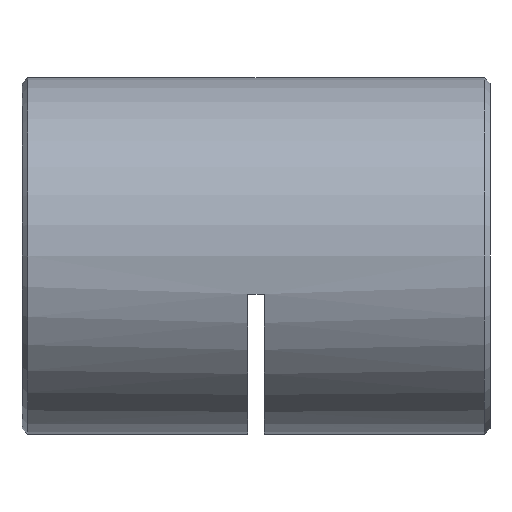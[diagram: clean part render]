
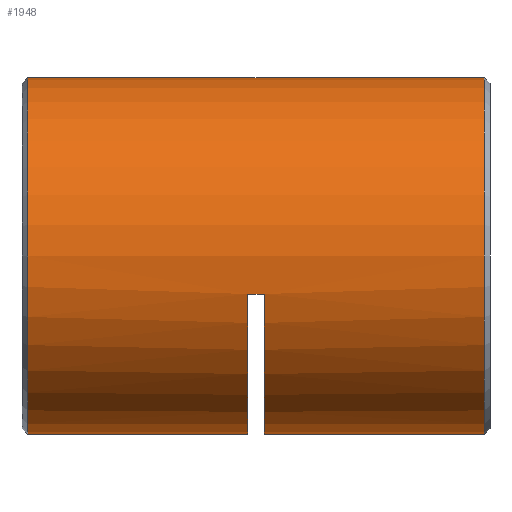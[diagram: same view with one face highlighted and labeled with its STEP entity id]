
A CAD part, left-side view. The second image highlights one B-rep face of the part: STEP entity #1948.
In plain terms, the highlighted cylindrical face has radius 16 mm (diameter 32 mm), a partial arc.
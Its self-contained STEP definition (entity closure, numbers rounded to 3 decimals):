
#50 = ORIENTED_EDGE ( 'NONE', *, *, #4543, .T. ) ;
#66 = CIRCLE ( 'NONE', #5016, 16. ) ;
#68 = VECTOR ( 'NONE', #5538, 1000. ) ;
#150 = VECTOR ( 'NONE', #727, 1000. ) ;
#182 = CIRCLE ( 'NONE', #4840, 16. ) ;
#204 = EDGE_CURVE ( 'NONE', #3168, #455, #66, .T. ) ;
#301 = ORIENTED_EDGE ( 'NONE', *, *, #2844, .T. ) ;
#335 = VECTOR ( 'NONE', #5411, 1000. ) ;
#455 = VERTEX_POINT ( 'NONE', #5464 ) ;
#727 = DIRECTION ( 'NONE',  ( 0., -1., 0. ) ) ;
#883 = VERTEX_POINT ( 'NONE', #6007 ) ;
#931 = CARTESIAN_POINT ( 'NONE',  ( 0., 22., -16. ) ) ;
#984 = DIRECTION ( 'NONE',  ( 0., 1., 0. ) ) ;
#1346 = EDGE_CURVE ( 'NONE', #2958, #4187, #4666, .T. ) ;
#1348 = EDGE_LOOP ( 'NONE', ( #1732, #301, #6128, #4040, #50, #2366, #2981, #3561 ) ) ;
#1406 = CARTESIAN_POINT ( 'NONE',  ( 0., 42.5, -16. ) ) ;
#1523 = DIRECTION ( 'NONE',  ( 0., 0., -1. ) ) ;
#1547 = DIRECTION ( 'NONE',  ( 0., 0., -1. ) ) ;
#1731 = CARTESIAN_POINT ( 'NONE',  ( 0., 42.5, 16. ) ) ;
#1732 = ORIENTED_EDGE ( 'NONE', *, *, #5576, .F. ) ;
#1770 = LINE ( 'NONE', #1731, #150 ) ;
#1901 = DIRECTION ( 'NONE',  ( 0., 0., -1. ) ) ;
#1938 = CARTESIAN_POINT ( 'NONE',  ( 0., 42.5, 0. ) ) ;
#1948 = ADVANCED_FACE ( 'NONE', ( #3520 ), #4662, .T. ) ;
#2031 = DIRECTION ( 'NONE',  ( 0., 0., 1. ) ) ;
#2366 = ORIENTED_EDGE ( 'NONE', *, *, #204, .T. ) ;
#2472 = VERTEX_POINT ( 'NONE', #3926 ) ;
#2476 = CARTESIAN_POINT ( 'NONE',  ( 0., 41.75, 0. ) ) ;
#2506 = DIRECTION ( 'NONE',  ( 0., -1., 0. ) ) ;
#2829 = CARTESIAN_POINT ( 'NONE',  ( -15.632, 21.25, -3.413 ) ) ;
#2844 = EDGE_CURVE ( 'NONE', #2472, #883, #182, .T. ) ;
#2889 = CARTESIAN_POINT ( 'NONE',  ( -15.632, 20.5, -3.413 ) ) ;
#2958 = VERTEX_POINT ( 'NONE', #4089 ) ;
#2981 = ORIENTED_EDGE ( 'NONE', *, *, #5866, .T. ) ;
#3119 = CARTESIAN_POINT ( 'NONE',  ( 0., 0.75, -16. ) ) ;
#3168 = VERTEX_POINT ( 'NONE', #2889 ) ;
#3290 = EDGE_CURVE ( 'NONE', #883, #4187, #5172, .T. ) ;
#3345 = LINE ( 'NONE', #2829, #5784 ) ;
#3445 = VERTEX_POINT ( 'NONE', #4251 ) ;
#3458 = CARTESIAN_POINT ( 'NONE',  ( 0., 0.75, 0. ) ) ;
#3520 = FACE_OUTER_BOUND ( 'NONE', #1348, .T. ) ;
#3540 = DIRECTION ( 'NONE',  ( 0., -1., 0. ) ) ;
#3561 = ORIENTED_EDGE ( 'NONE', *, *, #3636, .T. ) ;
#3564 = DIRECTION ( 'NONE',  ( 0., -1., 0. ) ) ;
#3592 = AXIS2_PLACEMENT_3D ( 'NONE', #1938, #2506, #3924 ) ;
#3636 = EDGE_CURVE ( 'NONE', #5273, #3445, #5736, .T. ) ;
#3779 = LINE ( 'NONE', #4851, #68 ) ;
#3924 = DIRECTION ( 'NONE',  ( 0., 0., -1. ) ) ;
#3926 = CARTESIAN_POINT ( 'NONE',  ( 0., 41.75, 16. ) ) ;
#4040 = ORIENTED_EDGE ( 'NONE', *, *, #1346, .F. ) ;
#4072 = AXIS2_PLACEMENT_3D ( 'NONE', #4519, #3540, #1547 ) ;
#4089 = CARTESIAN_POINT ( 'NONE',  ( -15.632, 22., -3.413 ) ) ;
#4187 = VERTEX_POINT ( 'NONE', #931 ) ;
#4227 = CARTESIAN_POINT ( 'NONE',  ( 0., 20.5, 0. ) ) ;
#4251 = CARTESIAN_POINT ( 'NONE',  ( 0., 0.75, 16. ) ) ;
#4258 = DIRECTION ( 'NONE',  ( 0., -1., 0. ) ) ;
#4519 = CARTESIAN_POINT ( 'NONE',  ( 0., 22., 0. ) ) ;
#4543 = EDGE_CURVE ( 'NONE', #2958, #3168, #3345, .T. ) ;
#4662 = CYLINDRICAL_SURFACE ( 'NONE', #3592, 16. ) ;
#4666 = CIRCLE ( 'NONE', #4072, 16. ) ;
#4674 = DIRECTION ( 'NONE',  ( 0., -1., 0. ) ) ;
#4840 = AXIS2_PLACEMENT_3D ( 'NONE', #2476, #3564, #1523 ) ;
#4851 = CARTESIAN_POINT ( 'NONE',  ( 0., 42.5, -16. ) ) ;
#5016 = AXIS2_PLACEMENT_3D ( 'NONE', #4227, #4674, #1901 ) ;
#5172 = LINE ( 'NONE', #1406, #335 ) ;
#5273 = VERTEX_POINT ( 'NONE', #3119 ) ;
#5411 = DIRECTION ( 'NONE',  ( 0., -1., 0. ) ) ;
#5464 = CARTESIAN_POINT ( 'NONE',  ( 0., 20.5, -16. ) ) ;
#5538 = DIRECTION ( 'NONE',  ( 0., -1., 0. ) ) ;
#5576 = EDGE_CURVE ( 'NONE', #2472, #3445, #1770, .T. ) ;
#5736 = CIRCLE ( 'NONE', #5957, 16. ) ;
#5784 = VECTOR ( 'NONE', #4258, 1000. ) ;
#5866 = EDGE_CURVE ( 'NONE', #455, #5273, #3779, .T. ) ;
#5957 = AXIS2_PLACEMENT_3D ( 'NONE', #3458, #984, #2031 ) ;
#6007 = CARTESIAN_POINT ( 'NONE',  ( 0., 41.75, -16. ) ) ;
#6128 = ORIENTED_EDGE ( 'NONE', *, *, #3290, .T. ) ;
